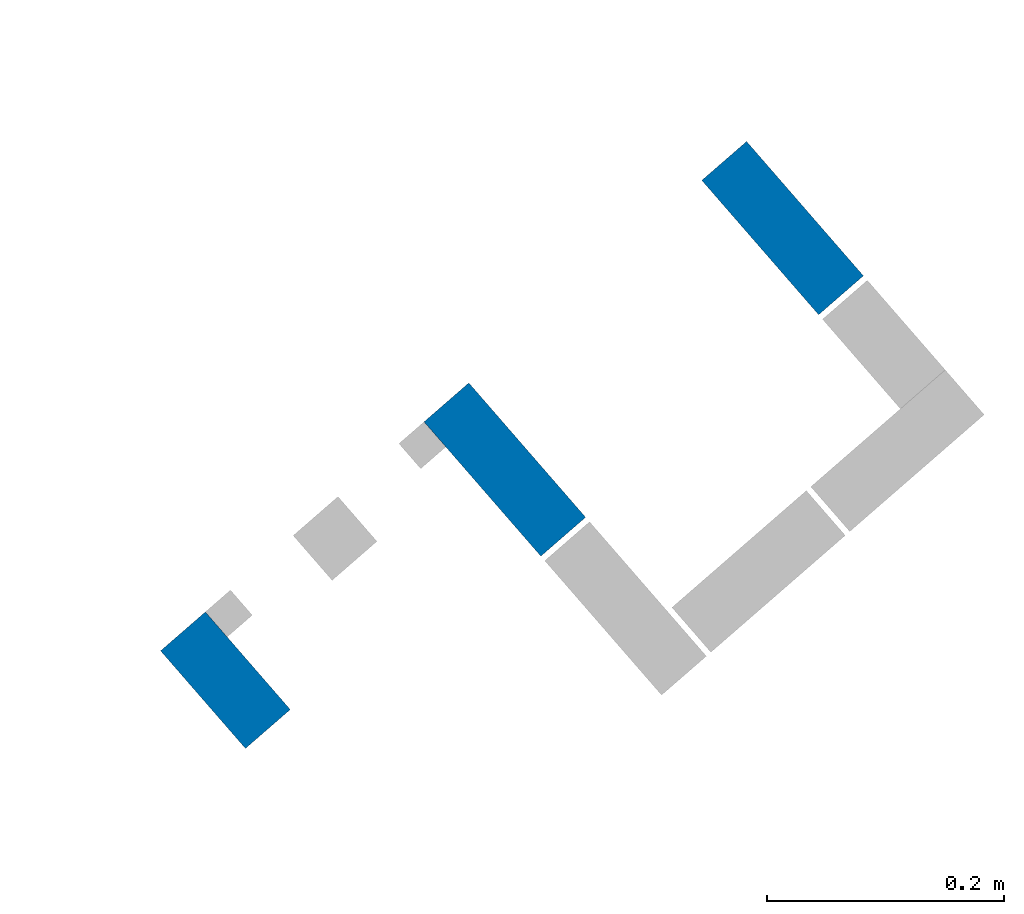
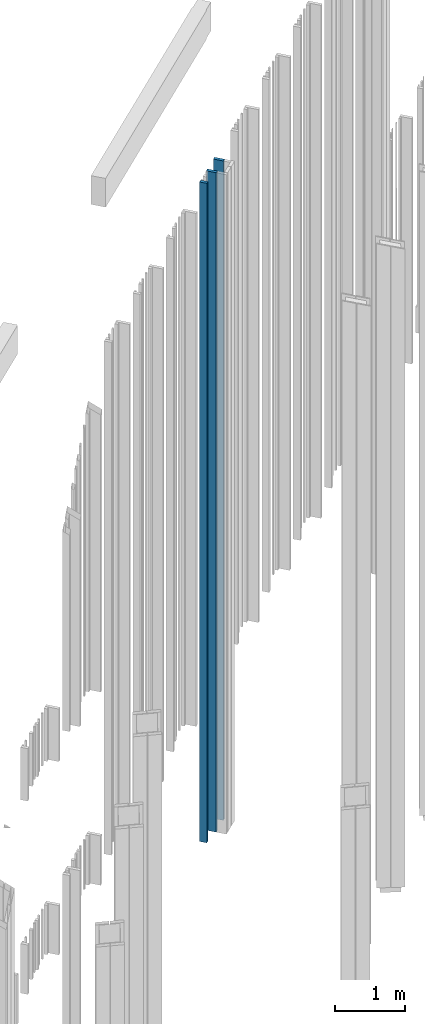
# One storey, part 246 of 390: 3 walls.
"""IFC2X3 building model written with IfcOpenShell, lengths in millimetres."""

import ifcopenshell
import ifcopenshell.guid

model = None  # the IFC model being written
_history = None  # IfcOwnerHistory: only IFC2X3 demands one
_inside = {}  # id of a spatial element -> (the spatial element, [elements in it])
_under = {}  # id of a project, library or spatial element -> (it, [spatial elements below it])
_declared = {}  # id of a project -> (the project, [libraries it declares])
_typed = {}  # id of a type object -> (the type object, [elements of that type])
_made_of = {}  # id of a material, layer set ... -> (it, [elements and type objects made of it])


def new_model(schema):
    """Start an empty IFC model of exactly this schema.

    Asked for "IFC4X3", IfcOpenShell would pick the latest addendum, in which some entities
    have other attributes; the version numbers below select the first issue.
    IFC2X3 requires an IfcOwnerHistory on every rooted entity: one is made here for all.
    """
    global model, _history
    if schema == "IFC4X3":
        model = ifcopenshell.file(schema_version=(4, 3, 0, 0))
    else:
        model = ifcopenshell.file(schema=schema)
    _inside.clear()
    _under.clear()
    _declared.clear()
    _typed.clear()
    _made_of.clear()
    _history = None
    if model.schema == "IFC2X3":
        org = make("IfcOrganization", Name="unknown")
        user = make(
            "IfcPersonAndOrganization",
            ThePerson=make("IfcPerson", FamilyName="unknown"),
            TheOrganization=org,
        )
        app = make(
            "IfcApplication",
            ApplicationDeveloper=org,
            Version="unknown",
            ApplicationFullName="unknown",
            ApplicationIdentifier="unknown",
        )
        _history = make(
            "IfcOwnerHistory",
            OwningUser=user,
            OwningApplication=app,
            ChangeAction="ADDED",
            CreationDate=0,
        )
    return model


def make(cls, **values):
    """One entity of the class cls with the attributes given. An attribute that is None is left unset."""
    return model.create_entity(
        cls, **{name: value for name, value in values.items() if value is not None}
    )


def entity(cls, *values):
    """Any entity or typed value of the class cls, its attributes in the order of the schema. None: left unset."""
    e = model.create_entity(cls)
    for i, value in enumerate(values):
        if value is not None:
            e[i] = value
    return e


def rooted(cls, **values):
    """An entity with a GlobalId (a new one), such as an element, a storey or a relation."""
    return make(cls, GlobalId=ifcopenshell.guid.new(), OwnerHistory=_history, **values)


def si_unit(unit_type, name, prefix=None):
    """IfcSIUnit, for example si_unit("LENGTHUNIT", "METRE", prefix="MILLI")."""
    return make("IfcSIUnit", UnitType=unit_type, Prefix=prefix, Name=name)


def converted_unit(unit_type, name, factor, base, dimensions=None, offset=None):
    """IfcConversionBasedUnit, such as the inch: factor (a typed value) times the base unit."""
    return make(
        "IfcConversionBasedUnit"
        if offset is None
        else "IfcConversionBasedUnitWithOffset",
        ConversionOffset=offset,
        Dimensions=None
        if dimensions is None
        else entity("IfcDimensionalExponents", *dimensions),
        UnitType=unit_type,
        Name=name,
        ConversionFactor=make(
            "IfcMeasureWithUnit", ValueComponent=factor, UnitComponent=base
        ),
    )


def derived_unit(unit_type, elements):
    """IfcDerivedUnit: a product of units, each with its exponent."""
    return make(
        "IfcDerivedUnit",
        Elements=[
            make("IfcDerivedUnitElement", Unit=unit, Exponent=power)
            for unit, power in elements
        ],
        UnitType=unit_type,
    )


def money_unit(currency):
    """IfcMonetaryUnit."""
    return make("IfcMonetaryUnit", Currency=currency)


def assignment(units):
    """IfcUnitAssignment: the units of a project."""
    return None if units is None else make("IfcUnitAssignment", Units=units)


def point(xyz):
    """IfcCartesianPoint."""
    return None if xyz is None else make("IfcCartesianPoint", Coordinates=xyz)


def direction(xyz):
    """IfcDirection."""
    return None if xyz is None else make("IfcDirection", DirectionRatios=xyz)


def frame(location, z_axis=None, x_axis=None):
    """IfcAxis2Placement3D, a coordinate frame: its origin and axes. An axis left out is left unset."""
    return make(
        "IfcAxis2Placement3D",
        Location=point(location),
        Axis=direction(z_axis),
        RefDirection=direction(x_axis),
    )


def origin_with_axes():
    """The frame at (0, 0, 0) with the z axis (0, 0, 1) and the x axis (1, 0, 0) written out."""
    return frame((0.0, 0.0, 0.0), z_axis=(0.0, 0.0, 1.0), x_axis=(1.0, 0.0, 0.0))


def place(relative_to, where):
    """IfcLocalPlacement: puts the frame where relative to a parent placement (None: the world)."""
    return make(
        "IfcLocalPlacement", PlacementRelTo=relative_to, RelativePlacement=where
    )


def context(
    kind, dimensions, precision=None, world=None, true_north=None, identifier=None
):
    """IfcGeometricRepresentationContext, for example the 3D "Model" context."""
    return make(
        "IfcGeometricRepresentationContext",
        ContextIdentifier=identifier,
        ContextType=kind,
        CoordinateSpaceDimension=dimensions,
        Precision=precision,
        WorldCoordinateSystem=world,
        TrueNorth=true_north,
    )


def subcontext(parent, identifier, kind, view, scale=None):
    """IfcGeometricRepresentationSubContext, for example "Body" below "Model"."""
    return make(
        "IfcGeometricRepresentationSubContext",
        ContextIdentifier=identifier,
        ContextType=kind,
        ParentContext=parent,
        TargetScale=scale,
        TargetView=view,
    )


def project(units=None, contexts=None):
    """IfcProject with its units and contexts."""
    return rooted(
        "IfcProject",
        Name="project",
        RepresentationContexts=contexts,
        UnitsInContext=assignment(units),
    )


def spatial(cls, under=None, at=None, **own):
    """A site, building, storey or space (cls), placed at a placement, below another one or the project."""
    s = rooted(cls, ObjectPlacement=at, **own)
    if under is not None:
        _under.setdefault(under.id(), (under, []))[1].append(s)
    return s


def faces_of(points, faces, orient=None, outer=None):
    """IfcFace entities. A face is a list of loops; a loop is a list of indices into points, from 0.

    orient and outer hold one flag for each loop. By default every Orientation is true, the
    first loop of a face is its IfcFaceOuterBound and the others are IfcFaceBound.
    """
    made = []
    for i, loops in enumerate(faces):
        bounds = []
        for j, loop in enumerate(loops):
            is_outer = j == 0 if outer is None else outer[i][j]
            bounds.append(
                make(
                    "IfcFaceOuterBound" if is_outer else "IfcFaceBound",
                    Bound=make("IfcPolyLoop", Polygon=[points[k] for k in loop]),
                    Orientation=True if orient is None else orient[i][j],
                )
            )
        made.append(make("IfcFace", Bounds=bounds))
    return made


def faceted_brep(points, faces, orient=None, outer=None, voids=None):
    """IfcFacetedBrep: a solid bounded by flat faces; with voids (closed shells), ...WithVoids."""
    shared = [point(p) for p in points]
    hull = make("IfcClosedShell", CfsFaces=faces_of(shared, faces, orient, outer))
    if voids is None:
        return make("IfcFacetedBrep", Outer=hull)
    return make(
        "IfcFacetedBrepWithVoids",
        Outer=hull,
        Voids=[
            make(cls, CfsFaces=faces_of(shared, fs, o, b)) for cls, fs, o, b in voids
        ],
    )


def shape(context_of_items, identifier, shape_type, items):
    """IfcShapeRepresentation: the items that make up one representation, for example the "Body"."""
    return make(
        "IfcShapeRepresentation",
        ContextOfItems=context_of_items,
        RepresentationIdentifier=identifier,
        RepresentationType=shape_type,
        Items=items,
    )


def material(Name=None, Category=None):
    """IfcMaterial."""
    return make("IfcMaterial", Name=Name, Category=Category)


def made_of(thing, what):
    """Note that an element or type object is made of a material, layer set ...; save() writes the relation."""
    if what is not None:
        _made_of.setdefault(what.id(), (what, []))[1].append(thing)
    return thing


def type_object(cls, material=None, **own):
    """A type object (cls), such as IfcWallType, which elements share."""
    return made_of(rooted(cls, **own), material)


def element(
    cls,
    number,
    at=None,
    inside=None,
    cuts=None,
    type_object=None,
    material=None,
    context=None,
    identifier="Body",
    shape_type=None,
    held_by="IfcProductDefinitionShape",
    body=None,
    shapes=None,
    **own,
):
    """One element of the class cls, such as IfcWall. Its Tag is "e" and its number.

    at: its placement. inside: the storey or other place that contains it. cuts: it is an
    opening in that element (IfcRelVoidsElement). A single representation is given by context,
    identifier, shape_type and body (its items); several are given by shapes. held_by: the class
    of the entity that holds the representations. save() writes the other relations.
    """
    e = rooted(cls, Tag="e%d" % number, ObjectPlacement=at, **own)
    if body is not None:
        shapes = [shape(context, identifier, shape_type, body)]
    if shapes is not None:
        e.Representation = make(held_by, Representations=shapes)
    if inside is not None:
        _inside.setdefault(inside.id(), (inside, []))[1].append(e)
    if cuts is not None:
        rooted(
            "IfcRelVoidsElement", RelatingBuildingElement=cuts, RelatedOpeningElement=e
        )
    if type_object is not None:
        _typed.setdefault(type_object.id(), (type_object, []))[1].append(e)
    return made_of(e, material)


def aggregate(whole, parts):
    """IfcRelAggregates: a whole, such as a stair, and the parts it consists of."""
    return rooted("IfcRelAggregates", RelatingObject=whole, RelatedObjects=parts)


def save(model, path):
    """Write the relations noted so far, then the file.

    IfcRelAggregates (storeys below a building ...), IfcRelContainedInSpatialStructure (elements
    in a storey), IfcRelDefinesByType, IfcRelAssociatesMaterial and IfcRelDeclares: one each for
    every whole, place, type object, material and project.
    """
    for whole, parts in _under.values():
        aggregate(whole, parts)
    for where, things in _inside.values():
        rooted(
            "IfcRelContainedInSpatialStructure",
            RelatedElements=things,
            RelatingStructure=where,
        )
    for kind, things in _typed.values():
        rooted("IfcRelDefinesByType", RelatedObjects=things, RelatingType=kind)
    for what, things in _made_of.values():
        rooted("IfcRelAssociatesMaterial", RelatedObjects=things, RelatingMaterial=what)
    for by, libraries in _declared.values():
        rooted("IfcRelDeclares", RelatingContext=by, RelatedDefinitions=libraries)
    model.write(path)


model = new_model("IFC2X3")

# Units and contexts
model_context = context("Model", 3, precision=1e-05, world=origin_with_axes(), true_north=direction((0.0, 1.0)))
body_context = subcontext(model_context, "Body", "Model", "MODEL_VIEW")
ifc_project = project(units=[si_unit("LENGTHUNIT", "METRE", prefix="MILLI"), si_unit("AREAUNIT", "SQUARE_METRE"), si_unit("VOLUMEUNIT", "CUBIC_METRE"), converted_unit("PLANEANGLEUNIT", "DEGREE", entity("IfcPlaneAngleMeasure", 0.0174532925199), si_unit("PLANEANGLEUNIT", "RADIAN"), dimensions=[0, 0, 0, 0, 0, 0, 0]), si_unit("SOLIDANGLEUNIT", "STERADIAN"), money_unit("EUR"), converted_unit("TIMEUNIT", "Year", entity("IfcTimeMeasure", 31556926.0), si_unit("TIMEUNIT", "SECOND"), dimensions=[0, 0, 1, 0, 0, 0, 0]), si_unit("MASSUNIT", "GRAM", prefix="KILO"), si_unit("THERMODYNAMICTEMPERATUREUNIT", "DEGREE_CELSIUS"), si_unit("LUMINOUSINTENSITYUNIT", "LUMEN"), si_unit("ENERGYUNIT", "JOULE", prefix="MEGA"), derived_unit("THERMALCONDUCTANCEUNIT", [(si_unit("POWERUNIT", "WATT"), 1), (si_unit("LENGTHUNIT", "METRE"), -1), (si_unit("THERMODYNAMICTEMPERATUREUNIT", "KELVIN"), -1)]), derived_unit("SPECIFICHEATCAPACITYUNIT", [(si_unit("ENERGYUNIT", "JOULE"), 1), (si_unit("MASSUNIT", "GRAM", prefix="KILO"), -1), (si_unit("THERMODYNAMICTEMPERATUREUNIT", "KELVIN"), -1)]), derived_unit("MASSDENSITYUNIT", [(si_unit("MASSUNIT", "GRAM", prefix="KILO"), 1), (si_unit("VOLUMEUNIT", "CUBIC_METRE"), -1)])], contexts=[model_context])

# Site, building, storey
site_placement = place(None, origin_with_axes())
site = spatial("IfcSite", under=ifc_project, at=site_placement, Name="Site", CompositionType="ELEMENT")
building_placement = place(site_placement, origin_with_axes())
building = spatial("IfcBuilding", under=site, at=building_placement, Name="Building", CompositionType="ELEMENT")
storey_placement = place(building_placement, origin_with_axes())
storey = spatial("IfcBuildingStorey", under=building, at=storey_placement, Name="1 korrus", CompositionType="ELEMENT", Elevation=0.0)

# Walls
ifc_material = material(Name="Site specified")
wall_type_1 = type_object("IfcWallType", Name="Puitfassaadi ribistik", PredefinedType="NOTDEFINED")
wall_placement = place(storey_placement, frame((157704.464454, 81681.928215, -1615.0), z_axis=(0.0, 0.0, 1.0), x_axis=(-0.754709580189, -0.65605902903, 0.0)))
element("IfcWall", 1, at=wall_placement, inside=storey, type_object=wall_type_1, material=ifc_material, Name="Site specified", context=body_context, shape_type="Brep", body=[
    faceted_brep([(-25.0, -54.5, 11480.0), (-25.0, -54.5, 0.0), (25.0, -54.5, 0.0), (25.0, -54.5, 11480.0), (-25.0, 54.5, 11480.0), (-25.0, 54.5, 0.0), (25.0, 54.5, 0.0), (25.0, 54.5, 11480.0)], [[[0, 1, 2, 3]], [[4, 5, 1, 0]], [[2, 1, 5, 6]], [[3, 2, 6, 7]], [[4, 0, 3, 7]], [[7, 6, 5, 4]]]),
])
wall_type_2 = type_object("IfcWallType", Name="Puitfassaadi ribisik", PredefinedType="NOTDEFINED")
for number, where, z_axis, x_axis, name in (
    (2, (158173.75825, 82062.7163222, -1615.0), (0.0, 0.0, 1.0), (-0.754709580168, -0.656059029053, 0.0), "Site specified"),
    (3, (157939.798301, 81859.3379496, -1615.0), (0.0, 0.0, 1.0), (-0.754709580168, -0.656059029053, 0.0), "Site specified"),
):
    element("IfcWall", number, at=place(storey_placement, frame(where, z_axis=z_axis, x_axis=x_axis)), inside=storey, type_object=wall_type_2, material=ifc_material, Name=name, context=body_context, shape_type="Brep", body=[
        faceted_brep([(-25.0, -75.0, 11479.9999949), (-25.0, -75.0, 0.0), (25.0, -75.0, 0.0), (25.0, -75.0, 11479.9999949), (-25.0, 75.0, 11479.9999949), (-25.0, 75.0, 0.0), (25.0, 75.0, 0.0), (25.0, 75.0, 11479.9999949)], [[[0, 1, 2, 3]], [[4, 5, 1, 0]], [[2, 1, 5, 6]], [[3, 2, 6, 7]], [[4, 0, 3, 7]], [[7, 6, 5, 4]]]),
    ])

save(model, "model.ifc")
